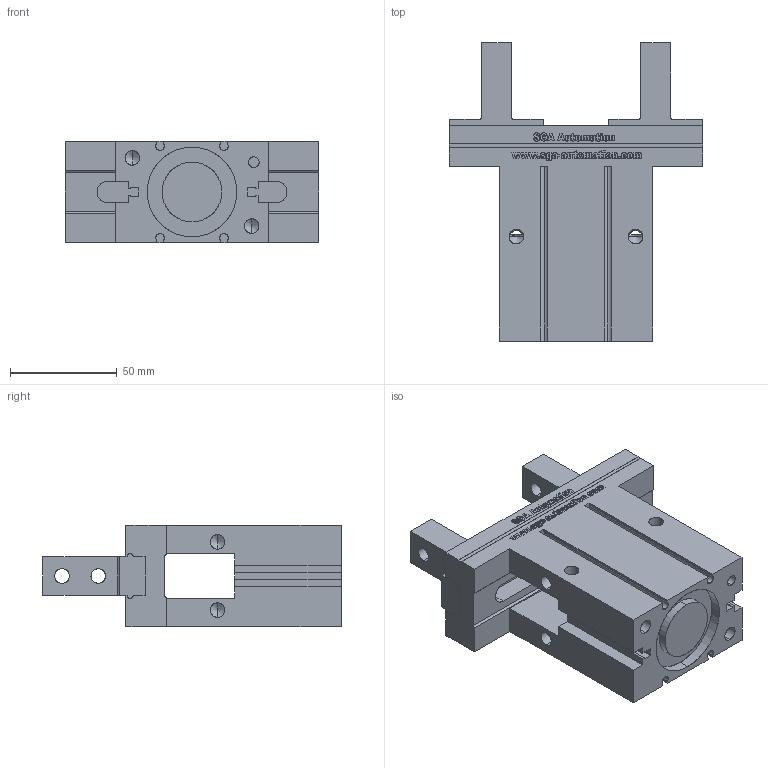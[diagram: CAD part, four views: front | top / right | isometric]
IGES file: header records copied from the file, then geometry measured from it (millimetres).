
Start section: SolidWorks IGES file using analytic representation for surfaces
Global section: file name: C:\Documents and Settings\1EDPI\Mes documents\Robin 14 11 18\GDZ.SOLIDWORKS\nouveau\GDZ40\igs\GDZ 40 ouvert.IGS; native system: SolidWorks 2010; preprocessor: SolidWorks 2010; author: 1EDPI; date: 141222.152349; units: millimetre
Bounding box: 119 x 140 x 47.6 mm (x, y, z)
Surface area: 67682.4 mm2 (no closed solid volume)
Topology: 0 solids, 0 shells, 1270 faces, 15888 edges, 15868 vertices
Faces by surface type: bspline 1183, revolution 87
